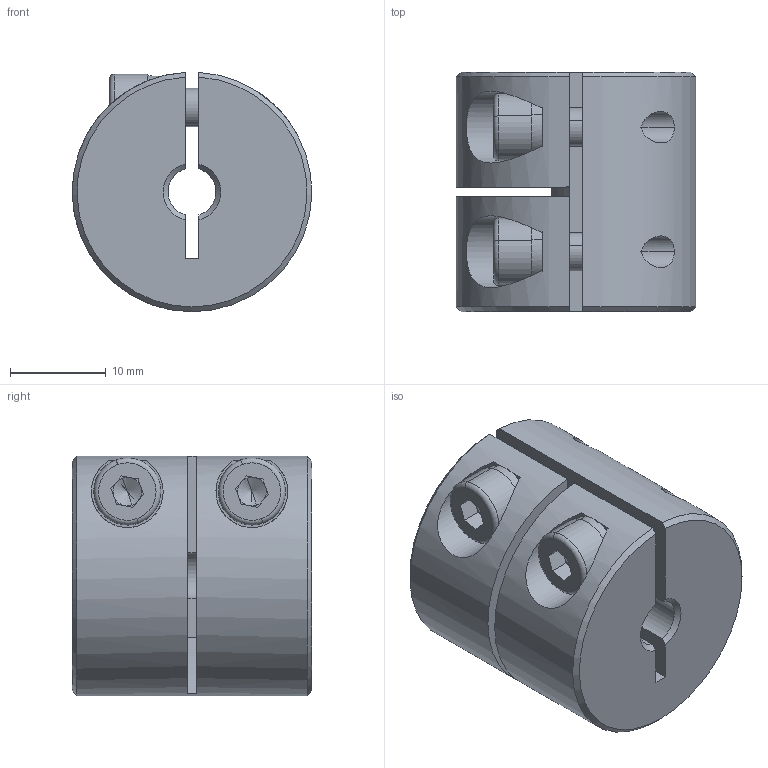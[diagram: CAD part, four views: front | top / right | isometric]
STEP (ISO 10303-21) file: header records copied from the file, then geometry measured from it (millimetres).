
FILE_DESCRIPTION (( 'STEP AP203' ), '1' );
FILE_NAME ('LL-B-D25L25-5-5.STEP', '2021-11-05T05:05:25', ( '' ), ( '' ), 'SwSTEP 2.0', 'SolidWorks 2018', '' );
FILE_SCHEMA (( 'CONFIG_CONTROL_DESIGN' ));
Length unit declared in the file: millimetre
Products named in the file (1): LL-B-D25L25-5-5
Bounding box: 24.99 x 25 x 24.98 mm (x, y, z)
Volume: 10891 mm3; surface area: 4947.1 mm2
Topology: 1 solids, 1 shells, 100 faces, 258 edges, 162 vertices
Faces by surface type: plane 50, cylinder 35, cone 11, torus 4
Entity records: 3335 total; most frequent: CARTESIAN_POINT 791, DIRECTION 536, ORIENTED_EDGE 508, EDGE_CURVE 254, AXIS2_PLACEMENT_3D 207, VERTEX_POINT 162, LINE 122, VECTOR 122
